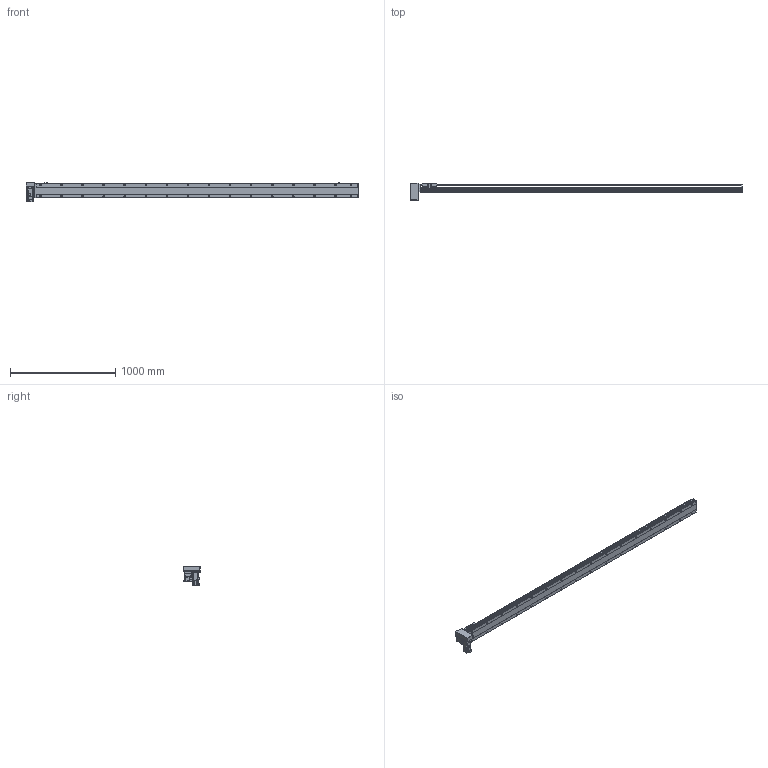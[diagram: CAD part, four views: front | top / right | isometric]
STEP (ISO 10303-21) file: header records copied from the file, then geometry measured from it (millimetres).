
FILE_DESCRIPTION( ( 'STEP AP214' ), '1' );
FILE_NAME( 'x:/temp/worker_1/temp/exporttempdir_5824_94_JhYAO/format_0/PBS140-P40-S2800-RD-T40-C1-N(0).stp', '2022-06-07T05:37:30', ( 'License CC BY-ND 4.0' ), ( 'CADENAS' ), ' ', 'PARTsolutions', ' ' );
FILE_SCHEMA( ( 'AUTOMOTIVE_DESIGN { 1 0 10303 214 1 1 1 1 }' ) );
Length unit declared in the file: millimetre
Products named in the file (7): PBS140-P40-S2800-RD-T40-C1-N(0); _PBS140-S2800()_body; _PBS140T-RD_motors; _T40-p1; _PBS140_sliser; _PBS140_plant; _PBS140_sensor
Assembly tree (8 placements, depth 2):
  PBS140-P40-S2800-RD-T40-C1-N(0)
    _PBS140-S2800()_body
    _PBS140T-RD_motors
    _T40-p1
    _PBS140_sliser
    _PBS140_plant
    _PBS140_sensor  x3
Bounding box: 3154 x 162 x 189.7 mm (x, y, z)
Volume: 14058399.7 mm3; surface area: 2387949.2 mm2
Topology: 8 solids, 8 shells, 1203 faces, 3156 edges, 2061 vertices
Faces by surface type: plane 740, cylinder 395, cone 58, sphere 8, torus 2
Full cylindrical faces by diameter (mm): 3.242 x4, 4 x2, 4.134 x4, 4.4 x8, 4.5 x2, 4.8 x4, 4.917 x40, 5.5 x7, 6 x2, 7 x34, 7.5 x8, 8 x12, 8.5 x4, 10.5 x32, 14 x1, 30 x2, 50 x2
Entity records: 44425 total; most frequent: CARTESIAN_POINT 7595, DIRECTION 5757, ORIENTED_EDGE 5392, EDGE_CURVE 2696, AXIS2_PLACEMENT_3D 2047, VERTEX_POINT 1893, LINE 1663, VECTOR 1663
